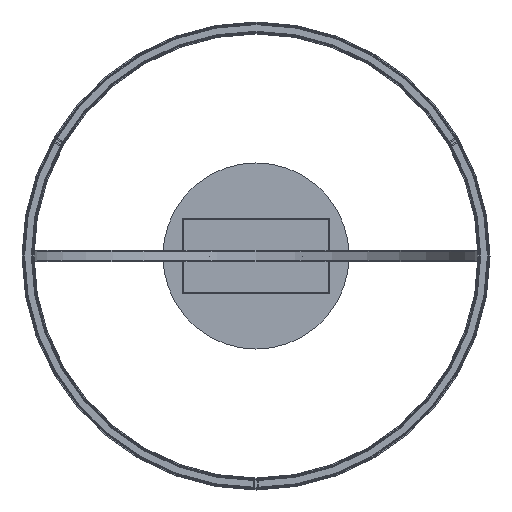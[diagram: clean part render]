
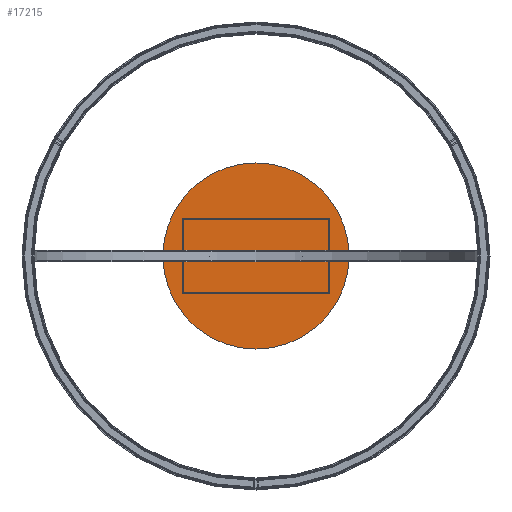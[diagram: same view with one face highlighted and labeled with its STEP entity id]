
A CAD part, front view. The second image highlights one B-rep face of the part: STEP entity #17215.
In plain terms, the highlighted planar face has unit normal (0, -1, 0).
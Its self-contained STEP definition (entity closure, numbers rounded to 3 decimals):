
#515 = CIRCLE ( 'NONE', #22178, 6.75 ) ;
#627 = DIRECTION ( 'NONE',  ( 0., 0., 1. ) ) ;
#785 = VERTEX_POINT ( 'NONE', #21198 ) ;
#1498 = ORIENTED_EDGE ( 'NONE', *, *, #8411, .T. ) ;
#1552 = DIRECTION ( 'NONE',  ( 0., 0., 1. ) ) ;
#1595 = CIRCLE ( 'NONE', #5601, 1.25 ) ;
#2041 = EDGE_CURVE ( 'NONE', #12956, #11405, #21185, .T. ) ;
#2305 = VERTEX_POINT ( 'NONE', #13817 ) ;
#2745 = VERTEX_POINT ( 'NONE', #15530 ) ;
#3224 = EDGE_LOOP ( 'NONE', ( #26895, #13075 ) ) ;
#3788 = CARTESIAN_POINT ( 'NONE',  ( -65., -1.5, 0. ) ) ;
#4163 = DIRECTION ( 'NONE',  ( 1., 0., 0. ) ) ;
#4166 = EDGE_CURVE ( 'NONE', #21330, #15453, #12984, .T. ) ;
#4376 = FACE_OUTER_BOUND ( 'NONE', #3224, .T. ) ;
#4654 = CARTESIAN_POINT ( 'NONE',  ( 0., -1.5, 0. ) ) ;
#5098 = VERTEX_POINT ( 'NONE', #6126 ) ;
#5264 = DIRECTION ( 'NONE',  ( 0., -1., 0. ) ) ;
#5544 = CIRCLE ( 'NONE', #25486, 1.25 ) ;
#5601 = AXIS2_PLACEMENT_3D ( 'NONE', #3788, #12257, #1552 ) ;
#5979 = AXIS2_PLACEMENT_3D ( 'NONE', #16291, #22670, #9754 ) ;
#6038 = DIRECTION ( 'NONE',  ( 0., 1., 0. ) ) ;
#6126 = CARTESIAN_POINT ( 'NONE',  ( 0., -1.5, -6.75 ) ) ;
#6233 = EDGE_CURVE ( 'NONE', #11405, #2305, #13082, .T. ) ;
#6634 = EDGE_CURVE ( 'NONE', #785, #12956, #5544, .T. ) ;
#6966 = ORIENTED_EDGE ( 'NONE', *, *, #13279, .T. ) ;
#7427 = ORIENTED_EDGE ( 'NONE', *, *, #10719, .T. ) ;
#7698 = EDGE_CURVE ( 'NONE', #15453, #21330, #7788, .T. ) ;
#7788 = CIRCLE ( 'NONE', #25963, 179. ) ;
#8312 = CARTESIAN_POINT ( 'NONE',  ( 0., -1.5, 1.25 ) ) ;
#8411 = EDGE_CURVE ( 'NONE', #15746, #13041, #1595, .T. ) ;
#8473 = DIRECTION ( 'NONE',  ( -1., 0., 0. ) ) ;
#8520 = CARTESIAN_POINT ( 'NONE',  ( 115., -1.5, 1.25 ) ) ;
#9555 = DIRECTION ( 'NONE',  ( 0., 0., 1. ) ) ;
#9754 = DIRECTION ( 'NONE',  ( 0., 0., 1. ) ) ;
#9970 = ORIENTED_EDGE ( 'NONE', *, *, #24517, .T. ) ;
#10202 = CARTESIAN_POINT ( 'NONE',  ( 0., -1.5, 0. ) ) ;
#10269 = LINE ( 'NONE', #18758, #24426 ) ;
#10340 = DIRECTION ( 'NONE',  ( 0., 1., 0. ) ) ;
#10362 = VERTEX_POINT ( 'NONE', #12261 ) ;
#10719 = EDGE_CURVE ( 'NONE', #10362, #2745, #11913, .T. ) ;
#10758 = CARTESIAN_POINT ( 'NONE',  ( 0., -1.5, -179. ) ) ;
#11028 = CARTESIAN_POINT ( 'NONE',  ( 65., -1.5, 1.25 ) ) ;
#11032 = AXIS2_PLACEMENT_3D ( 'NONE', #20129, #16098, #9555 ) ;
#11116 = VECTOR ( 'NONE', #13133, 1000. ) ;
#11319 = DIRECTION ( 'NONE',  ( 0., 1., 0. ) ) ;
#11405 = VERTEX_POINT ( 'NONE', #11028 ) ;
#11593 = CARTESIAN_POINT ( 'NONE',  ( 0., -1.5, 0. ) ) ;
#11913 = CIRCLE ( 'NONE', #11032, 1.25 ) ;
#12257 = DIRECTION ( 'NONE',  ( 0., 1., 0. ) ) ;
#12261 = CARTESIAN_POINT ( 'NONE',  ( -115., -1.5, -1.25 ) ) ;
#12691 = CARTESIAN_POINT ( 'NONE',  ( -65., -1.5, -1.25 ) ) ;
#12956 = VERTEX_POINT ( 'NONE', #8520 ) ;
#12984 = CIRCLE ( 'NONE', #24047, 179. ) ;
#12989 = LINE ( 'NONE', #15067, #14112 ) ;
#13041 = VERTEX_POINT ( 'NONE', #12691 ) ;
#13075 = ORIENTED_EDGE ( 'NONE', *, *, #7698, .F. ) ;
#13082 = CIRCLE ( 'NONE', #5979, 1.25 ) ;
#13116 = FACE_BOUND ( 'NONE', #20262, .T. ) ;
#13133 = DIRECTION ( 'NONE',  ( -1., 0., 0. ) ) ;
#13198 = CIRCLE ( 'NONE', #23830, 6.75 ) ;
#13279 = EDGE_CURVE ( 'NONE', #13041, #10362, #10269, .T. ) ;
#13817 = CARTESIAN_POINT ( 'NONE',  ( 65., -1.5, -1.25 ) ) ;
#14110 = DIRECTION ( 'NONE',  ( 0., 0., 1. ) ) ;
#14112 = VECTOR ( 'NONE', #16737, 1000. ) ;
#14650 = CARTESIAN_POINT ( 'NONE',  ( 0., -1.5, 6.75 ) ) ;
#15067 = CARTESIAN_POINT ( 'NONE',  ( 0., -1.5, -1.25 ) ) ;
#15203 = PLANE ( 'NONE',  #26927 ) ;
#15392 = ORIENTED_EDGE ( 'NONE', *, *, #2041, .F. ) ;
#15453 = VERTEX_POINT ( 'NONE', #10758 ) ;
#15530 = CARTESIAN_POINT ( 'NONE',  ( -115., -1.5, 1.25 ) ) ;
#15746 = VERTEX_POINT ( 'NONE', #17832 ) ;
#16098 = DIRECTION ( 'NONE',  ( 0., 1., 0. ) ) ;
#16291 = CARTESIAN_POINT ( 'NONE',  ( 65., -1.5, 0. ) ) ;
#16737 = DIRECTION ( 'NONE',  ( 1., 0., 0. ) ) ;
#17082 = LINE ( 'NONE', #8312, #27456 ) ;
#17138 = DIRECTION ( 'NONE',  ( 0., 1., 0. ) ) ;
#17215 = ADVANCED_FACE ( 'NONE', ( #25588, #4376, #23253, #13116 ), #15203, .F. ) ;
#17581 = ORIENTED_EDGE ( 'NONE', *, *, #6233, .F. ) ;
#17832 = CARTESIAN_POINT ( 'NONE',  ( -65., -1.5, 1.25 ) ) ;
#17841 = ORIENTED_EDGE ( 'NONE', *, *, #19110, .F. ) ;
#18517 = CARTESIAN_POINT ( 'NONE',  ( 0., -1.5, 0. ) ) ;
#18758 = CARTESIAN_POINT ( 'NONE',  ( 0., -1.5, -1.25 ) ) ;
#18897 = EDGE_CURVE ( 'NONE', #23025, #5098, #13198, .T. ) ;
#18959 = DIRECTION ( 'NONE',  ( 0., 0., 1. ) ) ;
#18975 = CARTESIAN_POINT ( 'NONE',  ( 0., -1.5, 1.25 ) ) ;
#19110 = EDGE_CURVE ( 'NONE', #2305, #785, #12989, .T. ) ;
#20047 = EDGE_LOOP ( 'NONE', ( #6966, #7427, #26767, #1498 ) ) ;
#20129 = CARTESIAN_POINT ( 'NONE',  ( -115., -1.5, 0. ) ) ;
#20262 = EDGE_LOOP ( 'NONE', ( #21246, #17841, #17581, #15392 ) ) ;
#20888 = EDGE_CURVE ( 'NONE', #2745, #15746, #17082, .T. ) ;
#21185 = LINE ( 'NONE', #18975, #11116 ) ;
#21198 = CARTESIAN_POINT ( 'NONE',  ( 115., -1.5, -1.25 ) ) ;
#21246 = ORIENTED_EDGE ( 'NONE', *, *, #6634, .F. ) ;
#21330 = VERTEX_POINT ( 'NONE', #22578 ) ;
#21697 = CARTESIAN_POINT ( 'NONE',  ( 0., -1.5, 0. ) ) ;
#22178 = AXIS2_PLACEMENT_3D ( 'NONE', #21697, #6038, #18959 ) ;
#22202 = CARTESIAN_POINT ( 'NONE',  ( 115., -1.5, 0. ) ) ;
#22578 = CARTESIAN_POINT ( 'NONE',  ( 0., -1.5, 179. ) ) ;
#22670 = DIRECTION ( 'NONE',  ( 0., -1., 0. ) ) ;
#22947 = DIRECTION ( 'NONE',  ( 0., 0., 1. ) ) ;
#23025 = VERTEX_POINT ( 'NONE', #14650 ) ;
#23253 = FACE_BOUND ( 'NONE', #20047, .T. ) ;
#23540 = ORIENTED_EDGE ( 'NONE', *, *, #18897, .T. ) ;
#23830 = AXIS2_PLACEMENT_3D ( 'NONE', #10202, #26990, #14110 ) ;
#24002 = DIRECTION ( 'NONE',  ( 0., 0., 1. ) ) ;
#24047 = AXIS2_PLACEMENT_3D ( 'NONE', #11593, #11319, #627 ) ;
#24426 = VECTOR ( 'NONE', #8473, 1000. ) ;
#24517 = EDGE_CURVE ( 'NONE', #5098, #23025, #515, .T. ) ;
#25461 = EDGE_LOOP ( 'NONE', ( #23540, #9970 ) ) ;
#25486 = AXIS2_PLACEMENT_3D ( 'NONE', #22202, #5264, #24002 ) ;
#25588 = FACE_BOUND ( 'NONE', #25461, .T. ) ;
#25963 = AXIS2_PLACEMENT_3D ( 'NONE', #18517, #17138, #22947 ) ;
#26767 = ORIENTED_EDGE ( 'NONE', *, *, #20888, .T. ) ;
#26895 = ORIENTED_EDGE ( 'NONE', *, *, #4166, .F. ) ;
#26927 = AXIS2_PLACEMENT_3D ( 'NONE', #4654, #10340, #27270 ) ;
#26990 = DIRECTION ( 'NONE',  ( 0., 1., 0. ) ) ;
#27270 = DIRECTION ( 'NONE',  ( 0., 0., 1. ) ) ;
#27456 = VECTOR ( 'NONE', #4163, 1000. ) ;
